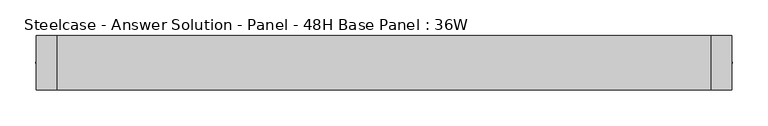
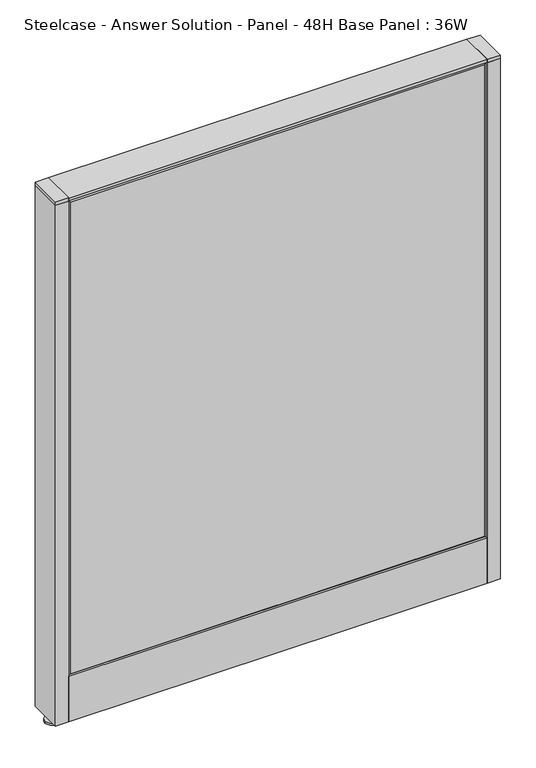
"""IFC4 building model written with IfcOpenShell, lengths in millimetres: furniture geometry, Steelcase - Answer Solution - Panel - 48H Base Panel : 36W."""

import ifcopenshell
import ifcopenshell.guid

model = None  # the IFC model being written
_history = None  # IfcOwnerHistory: only IFC2X3 demands one
_inside = {}  # id of a spatial element -> (the spatial element, [elements in it])
_under = {}  # id of a project, library or spatial element -> (it, [spatial elements below it])
_declared = {}  # id of a project -> (the project, [libraries it declares])
_typed = {}  # id of a type object -> (the type object, [elements of that type])
_made_of = {}  # id of a material, layer set ... -> (it, [elements and type objects made of it])


def new_model(schema):
    """Start an empty IFC model of exactly this schema.

    Asked for "IFC4X3", IfcOpenShell would pick the latest addendum, in which some entities
    have other attributes; the version numbers below select the first issue.
    IFC2X3 requires an IfcOwnerHistory on every rooted entity: one is made here for all.
    """
    global model, _history
    if schema == "IFC4X3":
        model = ifcopenshell.file(schema_version=(4, 3, 0, 0))
    else:
        model = ifcopenshell.file(schema=schema)
    _inside.clear()
    _under.clear()
    _declared.clear()
    _typed.clear()
    _made_of.clear()
    _history = None
    if model.schema == "IFC2X3":
        org = make("IfcOrganization", Name="unknown")
        user = make(
            "IfcPersonAndOrganization",
            ThePerson=make("IfcPerson", FamilyName="unknown"),
            TheOrganization=org,
        )
        app = make(
            "IfcApplication",
            ApplicationDeveloper=org,
            Version="unknown",
            ApplicationFullName="unknown",
            ApplicationIdentifier="unknown",
        )
        _history = make(
            "IfcOwnerHistory",
            OwningUser=user,
            OwningApplication=app,
            ChangeAction="ADDED",
            CreationDate=0,
        )
    return model


def make(cls, **values):
    """One entity of the class cls with the attributes given. An attribute that is None is left unset."""
    return model.create_entity(
        cls, **{name: value for name, value in values.items() if value is not None}
    )


def rooted(cls, **values):
    """An entity with a GlobalId (a new one), such as an element, a storey or a relation."""
    return make(cls, GlobalId=ifcopenshell.guid.new(), OwnerHistory=_history, **values)


def si_unit(unit_type, name, prefix=None):
    """IfcSIUnit, for example si_unit("LENGTHUNIT", "METRE", prefix="MILLI")."""
    return make("IfcSIUnit", UnitType=unit_type, Prefix=prefix, Name=name)


def assignment(units):
    """IfcUnitAssignment: the units of a project."""
    return None if units is None else make("IfcUnitAssignment", Units=units)


def point(xyz):
    """IfcCartesianPoint."""
    return None if xyz is None else make("IfcCartesianPoint", Coordinates=xyz)


def direction(xyz):
    """IfcDirection."""
    return None if xyz is None else make("IfcDirection", DirectionRatios=xyz)


def frame(location, z_axis=None, x_axis=None):
    """IfcAxis2Placement3D, a coordinate frame: its origin and axes. An axis left out is left unset."""
    return make(
        "IfcAxis2Placement3D",
        Location=point(location),
        Axis=direction(z_axis),
        RefDirection=direction(x_axis),
    )


def frame_2d(location, x_axis=None):
    """IfcAxis2Placement2D, a coordinate frame in the plane: its origin and x axis."""
    return make(
        "IfcAxis2Placement2D", Location=point(location), RefDirection=direction(x_axis)
    )


def origin():
    """The frame at (0, 0, 0) with its axes left unset."""
    return frame((0.0, 0.0, 0.0))


def place(relative_to, where):
    """IfcLocalPlacement: puts the frame where relative to a parent placement (None: the world)."""
    return make(
        "IfcLocalPlacement", PlacementRelTo=relative_to, RelativePlacement=where
    )


def context(
    kind, dimensions, precision=None, world=None, true_north=None, identifier=None
):
    """IfcGeometricRepresentationContext, for example the 3D "Model" context."""
    return make(
        "IfcGeometricRepresentationContext",
        ContextIdentifier=identifier,
        ContextType=kind,
        CoordinateSpaceDimension=dimensions,
        Precision=precision,
        WorldCoordinateSystem=world,
        TrueNorth=true_north,
    )


def project(units=None, contexts=None):
    """IfcProject with its units and contexts."""
    return rooted(
        "IfcProject",
        Name="project",
        RepresentationContexts=contexts,
        UnitsInContext=assignment(units),
    )


def spatial(cls, under=None, at=None, **own):
    """A site, building, storey or space (cls), placed at a placement, below another one or the project."""
    s = rooted(cls, ObjectPlacement=at, **own)
    if under is not None:
        _under.setdefault(under.id(), (under, []))[1].append(s)
    return s


def polyline(points):
    """IfcPolyline through the points."""
    return make("IfcPolyline", Points=[point(p) for p in points])


def circle_curve(where, radius):
    """IfcCircle in the frame where."""
    return make("IfcCircle", Position=where, Radius=radius)


def trimmed(basis, trim1, trim2, sense, master):
    """IfcTrimmedCurve: the piece of a basis curve between two trims."""
    return make(
        "IfcTrimmedCurve",
        BasisCurve=basis,
        Trim1=trim1,
        Trim2=trim2,
        SenseAgreement=sense,
        MasterRepresentation=master,
    )


def segment(curve, same_sense, transition):
    """IfcCompositeCurveSegment."""
    return make(
        "IfcCompositeCurveSegment",
        Transition=transition,
        SameSense=same_sense,
        ParentCurve=curve,
    )


def composite_curve(segments, self_intersect=None):
    """IfcCompositeCurve: segments joined end to end."""
    return make("IfcCompositeCurve", Segments=segments, SelfIntersect=self_intersect)


def outline(outer, holes=None, kind="AREA"):
    """IfcArbitraryClosedProfileDef: a profile drawn as a closed curve; with holes, ...WithVoids."""
    if holes is None:
        return make("IfcArbitraryClosedProfileDef", ProfileType=kind, OuterCurve=outer)
    return make(
        "IfcArbitraryProfileDefWithVoids",
        ProfileType=kind,
        OuterCurve=outer,
        InnerCurves=holes,
    )


def extrude(swept, where, along, depth):
    """IfcExtrudedAreaSolid: the profile swept, set in the frame where, extruded along a direction by depth."""
    return make(
        "IfcExtrudedAreaSolid",
        SweptArea=swept,
        Position=where,
        ExtrudedDirection=direction(along),
        Depth=depth,
    )


def faces_of(points, faces, orient=None, outer=None):
    """IfcFace entities. A face is a list of loops; a loop is a list of indices into points, from 0.

    orient and outer hold one flag for each loop. By default every Orientation is true, the
    first loop of a face is its IfcFaceOuterBound and the others are IfcFaceBound.
    """
    made = []
    for i, loops in enumerate(faces):
        bounds = []
        for j, loop in enumerate(loops):
            is_outer = j == 0 if outer is None else outer[i][j]
            bounds.append(
                make(
                    "IfcFaceOuterBound" if is_outer else "IfcFaceBound",
                    Bound=make("IfcPolyLoop", Polygon=[points[k] for k in loop]),
                    Orientation=True if orient is None else orient[i][j],
                )
            )
        made.append(make("IfcFace", Bounds=bounds))
    return made


def faceted_brep(points, faces, orient=None, outer=None, voids=None):
    """IfcFacetedBrep: a solid bounded by flat faces; with voids (closed shells), ...WithVoids."""
    shared = [point(p) for p in points]
    hull = make("IfcClosedShell", CfsFaces=faces_of(shared, faces, orient, outer))
    if voids is None:
        return make("IfcFacetedBrep", Outer=hull)
    return make(
        "IfcFacetedBrepWithVoids",
        Outer=hull,
        Voids=[
            make(cls, CfsFaces=faces_of(shared, fs, o, b)) for cls, fs, o, b in voids
        ],
    )


def shape(context_of_items, identifier, shape_type, items):
    """IfcShapeRepresentation: the items that make up one representation, for example the "Body"."""
    return make(
        "IfcShapeRepresentation",
        ContextOfItems=context_of_items,
        RepresentationIdentifier=identifier,
        RepresentationType=shape_type,
        Items=items,
    )


def source(mapping_origin, context_of_items, identifier, shape_type, items):
    """IfcRepresentationMap: a shape defined once, which mapped items show again and again."""
    return make(
        "IfcRepresentationMap",
        MappingOrigin=mapping_origin,
        MappedRepresentation=shape(context_of_items, identifier, shape_type, items),
    )


def transform(
    local_origin,
    x_axis=None,
    y_axis=None,
    z_axis=None,
    scale=None,
    scale2=None,
    scale3=None,
    uniform=True,
):
    """IfcCartesianTransformationOperator3D, or its non-uniform kind. x_axis, y_axis, z_axis: its Axis1, 2, 3."""
    if uniform:
        return make(
            "IfcCartesianTransformationOperator3D",
            Axis1=direction(x_axis),
            Axis2=direction(y_axis),
            LocalOrigin=point(local_origin),
            Scale=scale,
            Axis3=direction(z_axis),
        )
    return make(
        "IfcCartesianTransformationOperator3DnonUniform",
        Axis1=direction(x_axis),
        Axis2=direction(y_axis),
        LocalOrigin=point(local_origin),
        Scale=scale,
        Axis3=direction(z_axis),
        Scale2=scale2,
        Scale3=scale3,
    )


def mapped(mapping_source, mapping_target):
    """IfcMappedItem: shows the shape of a source again, moved by a transform."""
    return make(
        "IfcMappedItem", MappingSource=mapping_source, MappingTarget=mapping_target
    )


def made_of(thing, what):
    """Note that an element or type object is made of a material, layer set ...; save() writes the relation."""
    if what is not None:
        _made_of.setdefault(what.id(), (what, []))[1].append(thing)
    return thing


def element(
    cls,
    number,
    at=None,
    inside=None,
    cuts=None,
    type_object=None,
    material=None,
    context=None,
    identifier="Body",
    shape_type=None,
    held_by="IfcProductDefinitionShape",
    body=None,
    shapes=None,
    **own,
):
    """One element of the class cls, such as IfcWall. Its Tag is "e" and its number.

    at: its placement. inside: the storey or other place that contains it. cuts: it is an
    opening in that element (IfcRelVoidsElement). A single representation is given by context,
    identifier, shape_type and body (its items); several are given by shapes. held_by: the class
    of the entity that holds the representations. save() writes the other relations.
    """
    e = rooted(cls, Tag="e%d" % number, ObjectPlacement=at, **own)
    if body is not None:
        shapes = [shape(context, identifier, shape_type, body)]
    if shapes is not None:
        e.Representation = make(held_by, Representations=shapes)
    if inside is not None:
        _inside.setdefault(inside.id(), (inside, []))[1].append(e)
    if cuts is not None:
        rooted(
            "IfcRelVoidsElement", RelatingBuildingElement=cuts, RelatedOpeningElement=e
        )
    if type_object is not None:
        _typed.setdefault(type_object.id(), (type_object, []))[1].append(e)
    return made_of(e, material)


def aggregate(whole, parts):
    """IfcRelAggregates: a whole, such as a stair, and the parts it consists of."""
    return rooted("IfcRelAggregates", RelatingObject=whole, RelatedObjects=parts)


def save(model, path):
    """Write the relations noted so far, then the file.

    IfcRelAggregates (storeys below a building ...), IfcRelContainedInSpatialStructure (elements
    in a storey), IfcRelDefinesByType, IfcRelAssociatesMaterial and IfcRelDeclares: one each for
    every whole, place, type object, material and project.
    """
    for whole, parts in _under.values():
        aggregate(whole, parts)
    for where, things in _inside.values():
        rooted(
            "IfcRelContainedInSpatialStructure",
            RelatedElements=things,
            RelatingStructure=where,
        )
    for kind, things in _typed.values():
        rooted("IfcRelDefinesByType", RelatedObjects=things, RelatingType=kind)
    for what, things in _made_of.values():
        rooted("IfcRelAssociatesMaterial", RelatedObjects=things, RelatingMaterial=what)
    for by, libraries in _declared.values():
        rooted("IfcRelDeclares", RelatingContext=by, RelatedDefinitions=libraries)
    model.write(path)


def steelcase_answer_solution_panel_48h_base_panel_36w_83e3b41f(model_context):
    return source(origin(), model_context, "Body", "SolidModel", [
        extrude(outline(composite_curve([segment(trimmed(circle_curve(frame_2d((471.424, 0.0320214)), 5.08), [point((476.504, 0.0320214))], [point((466.344, 0.0320214))], False, "CARTESIAN"), True, "CONTINUOUS"), segment(trimmed(circle_curve(frame_2d((471.424, 0.0320214)), 5.08), [point((466.344, 0.0320214))], [point((476.504, 0.0320214))], False, "CARTESIAN"), True, "CONTINUOUS")], self_intersect=False)), frame((0.0, 0.0, 5.0799671), z_axis=(0.0, 0.0, 1.0), x_axis=(1.0, 0.0, 0.0)), (0.0, 0.0, 1.0), 10.414),
        extrude(outline(composite_curve([segment(trimmed(circle_curve(frame_2d((471.424, 0.0320214)), 15.24), [point((486.664, 0.0320214))], [point((456.184, 0.0320214))], False, "CARTESIAN"), True, "CONTINUOUS"), segment(trimmed(circle_curve(frame_2d((471.424, 0.0320214)), 15.24), [point((456.184, 0.0320214))], [point((486.664, 0.0320214))], False, "CARTESIAN"), True, "CONTINUOUS")], self_intersect=False)), frame((0.0, 0.0, -3.29e-05), z_axis=(0.0, 0.0, 1.0), x_axis=(1.0, 0.0, 0.0)), (0.0, 0.0, 1.0), 5.08),
        extrude(outline(polyline([(485.775, 38.1320408), (485.775, -38.0679592), (457.2, -38.0679592), (457.2, 38.1320408), (485.775, 38.1320408)])), frame((0.0, 0.0, 1218.2348), z_axis=(0.0, 0.0, 1.0), x_axis=(1.0, 0.0, 0.0)), (0.0, 0.0, 1.0), 7.3151671),
        extrude(outline(polyline([(485.775, 38.1320408), (485.775, -38.0679592), (457.2, -38.0679592), (457.2, 38.1320408), (485.775, 38.1320408)])), frame((0.0, 0.0, 15.4939671), z_axis=(0.0, 0.0, 1.0), x_axis=(1.0, 0.0, 0.0)), (0.0, 0.0, 1.0), 1202.7408329),
        extrude(outline(composite_curve([segment(trimmed(circle_curve(frame_2d((-471.424, 0.0320214)), 5.08), [point((-476.504, 0.0320214))], [point((-466.344, 0.0320214))], False, "CARTESIAN"), True, "CONTINUOUS"), segment(trimmed(circle_curve(frame_2d((-471.424, 0.0320214)), 5.08), [point((-466.344, 0.0320214))], [point((-476.504, 0.0320214))], False, "CARTESIAN"), True, "CONTINUOUS")], self_intersect=False)), frame((0.0, 0.0, 5.0799671), z_axis=(0.0, 0.0, 1.0), x_axis=(1.0, 0.0, 0.0)), (0.0, 0.0, 1.0), 10.414),
        extrude(outline(composite_curve([segment(trimmed(circle_curve(frame_2d((-471.424, 0.0320214)), 15.24), [point((-486.664, 0.0320214))], [point((-456.184, 0.0320214))], False, "CARTESIAN"), True, "CONTINUOUS"), segment(trimmed(circle_curve(frame_2d((-471.424, 0.0320214)), 15.24), [point((-456.184, 0.0320214))], [point((-486.664, 0.0320214))], False, "CARTESIAN"), True, "CONTINUOUS")], self_intersect=False)), frame((0.0, 0.0, -3.29e-05), z_axis=(0.0, 0.0, 1.0), x_axis=(1.0, 0.0, 0.0)), (0.0, 0.0, 1.0), 5.08),
        extrude(outline(polyline([(-485.775, 38.1320408), (-457.2, 38.1320408), (-457.2, -38.0679592), (-485.775, -38.0679592), (-485.775, 38.1320408)])), frame((0.0, 0.0, 1218.2348), z_axis=(0.0, 0.0, 1.0), x_axis=(1.0, 0.0, 0.0)), (0.0, 0.0, 1.0), 7.3151671),
        extrude(outline(polyline([(-485.775, 38.1320408), (-457.2, 38.1320408), (-457.2, -38.0679592), (-485.775, -38.0679592), (-485.775, 38.1320408)])), frame((0.0, 0.0, 15.4939671), z_axis=(0.0, 0.0, 1.0), x_axis=(1.0, 0.0, 0.0)), (0.0, 0.0, 1.0), 1202.7408329),
        faceted_brep([(-452.374, 38.1635011, 1214.374), (452.374, 38.1635011, 1214.374), (452.374, 38.1635011, 125.476), (-452.374, 38.1635011, 125.476), (-457.2, 33.3375011, 1219.2), (-457.2, 33.3375011, 120.65), (457.2, 33.3375011, 120.65), (457.2, 33.3375011, 1219.2)], [[[0, 1, 2, 3]], [[4, 5, 6, 7]], [[4, 7, 1, 0]], [[7, 6, 2, 1]], [[6, 5, 3, 2]], [[5, 4, 0, 3]]]),
        faceted_brep([(452.374, -38.1635011, 1214.374), (-452.374, -38.1635011, 1214.374), (-452.374, -38.1635011, 125.476), (452.374, -38.1635011, 125.476), (457.2, -33.3375011, 1219.2), (457.2, -33.3375011, 120.65), (-457.2, -33.3375011, 120.65), (-457.2, -33.3375011, 1219.2)], [[[0, 1, 2, 3]], [[4, 5, 6, 7]], [[4, 7, 1, 0]], [[7, 6, 2, 1]], [[6, 5, 3, 2]], [[5, 4, 0, 3]]]),
        extrude(outline(polyline([(457.2, 38.1000194), (457.2, -38.1000194), (-457.2, -38.1000194), (-457.2, 38.1000194), (457.2, 38.1000194)])), frame((0.0, 0.0, 1219.2), z_axis=(0.0, 0.0, 1.0), x_axis=(1.0, 0.0, 0.0)), (0.0, 0.0, 1.0), 6.35),
        extrude(outline(polyline([(25.4000011, 119.8575157), (25.4000011, 120.65), (38.1000194, 120.65), (38.1000194, 15.494), (37.3075215, 15.494), (37.3075215, 119.8575157), (25.4000011, 119.8575157)])), frame((-457.2, 0.0, 0.0), z_axis=(1.0, 0.0, 0.0), x_axis=(0.0, 1.0, 0.0)), (0.0, 0.0, 1.0), 914.4),
        extrude(outline(polyline([(-25.4000011, 119.8575157), (-37.3075215, 119.8575157), (-37.3075215, 15.494), (-38.1000194, 15.494), (-38.1000194, 120.65), (-25.4000011, 120.65), (-25.4000011, 119.8575157)])), frame((-457.2, 0.0, 0.0), z_axis=(1.0, 0.0, 0.0), x_axis=(0.0, 1.0, 0.0)), (0.0, 0.0, 1.0), 914.4),
    ])


if __name__ == "__main__":
    model = new_model("IFC4")
    model_context = context("Model", 3, world=origin())
    ifc_project = project(units=[si_unit("LENGTHUNIT", "METRE", prefix="MILLI")], contexts=[model_context])
    site = spatial("IfcSite", under=ifc_project)
    building = spatial("IfcBuilding", under=site)
    placement = place(None, origin())
    steelcase_answer_solution_panel_48h_base_panel_36w_shape = steelcase_answer_solution_panel_48h_base_panel_36w_83e3b41f(model_context)
    element("IfcFurniture", 1, ObjectType="Steelcase - Answer Solution - Panel - 48H Base Panel : 36W", at=placement, inside=building, context=model_context, shape_type="MappedRepresentation", body=[
        mapped(steelcase_answer_solution_panel_48h_base_panel_36w_shape, transform((0.0, 0.0, 0.0), x_axis=(1.0, 0.0, 0.0), y_axis=(0.0, 1.0, 0.0), z_axis=(0.0, 0.0, 1.0))),
    ])
    save(model, "model.ifc")
